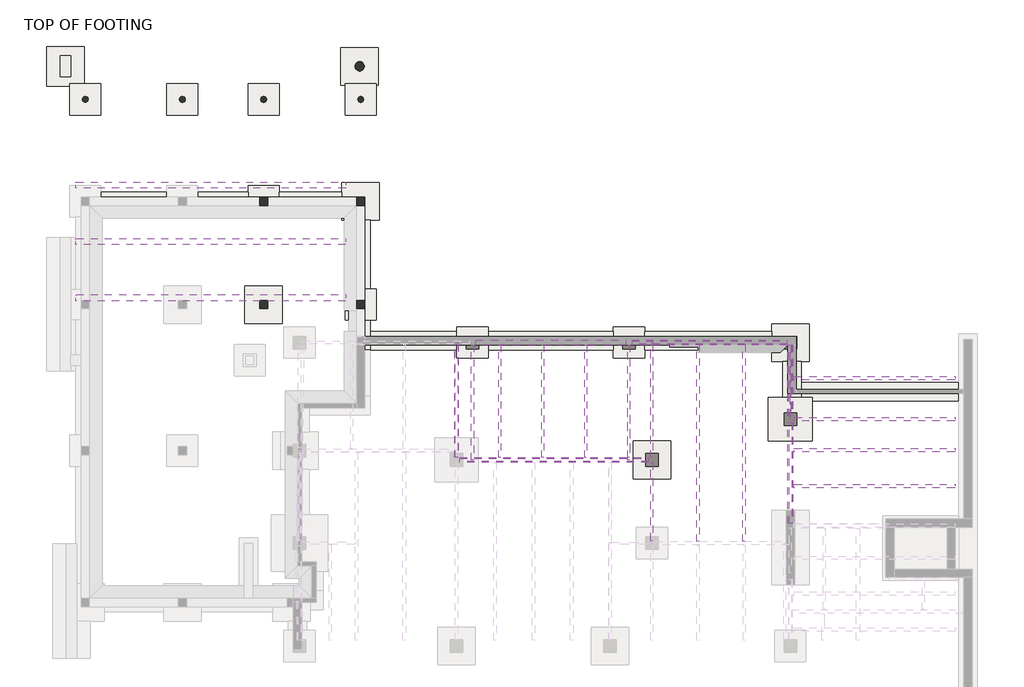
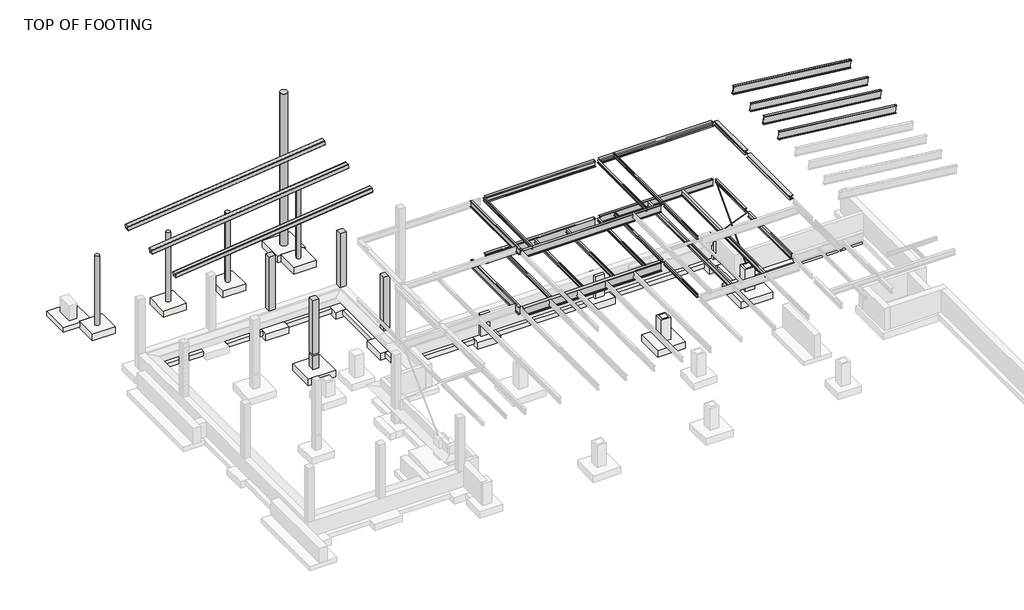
# One storey, part 4 of 5: 31 beams, 14 slabs, 9 columns, 6 footings, 2 members.
"""IFC4 building model written with IfcOpenShell, lengths in millimetres."""

from ifc_helpers import new_model, si_unit, point, frame, frame_2d, origin, place, context, project, spatial, polyline, circle_curve, trimmed, segment, composite_curve, outline, extrude, faceted_brep, transform, mapped, element, save
from components import hss_hollow_structural_section_hss12x12x1_2_ac1cf4bf, hss_hollow_structural_section_hss12x12x1_2_830ae8b1, w_wide_flange_w10x12_049afd95, w_wide_flange_w10x49_a7e93ba8, w_wide_flange_w10x49_ad4ce5ef, w_wide_flange_w10x49_01df90bb, w_wide_flange_w14x22_9bef81b0, w_wide_flange_w14x22_59cbeafc, w_wide_flange_w14x61_a1268b43, w_wide_flange_w16x26_811e96eb, w_wide_flange_w18x46_8f6cf0fd, w_wide_flange_w21x44_175405ae, w_wide_flange_w21x44_e2a4c59a, w_wide_flange_w21x44_7aeec852, w_wide_flange_w21x44_d1ecdd04, w_wide_flange_w21x44_476cda67, w_wide_flange_w21x44_bd7c8782, w_wide_flange_w24x84_4cf10b94, w_wide_flange_w24x84_bdb729cd, w_wide_flange_w8x10_22581100, w_wide_flange_w8x10_418ab950, w_wide_flange_w8x10_6a41b71d, w_wide_flange_w8x10_1bc876d9, slab_df1ede25, slab_6d6a3403, footing_rectangular_with_pier_e052c68f

model = new_model("IFC4")

# Units and contexts
model_context = context("Model", 3, world=origin())
ifc_project = project(units=[si_unit("LENGTHUNIT", "METRE", prefix="MILLI")], contexts=[model_context])

# Site, building, storey
site = spatial("IfcSite", under=ifc_project)
building = spatial("IfcBuilding", under=site)
storey = spatial("IfcBuildingStorey", under=building, Name="TOP OF FOOTING", Elevation=28905.2)

# Beams
placement = place(None, origin())
hss_hollow_structural_section_hss12x12x1_2_shape = hss_hollow_structural_section_hss12x12x1_2_ac1cf4bf(model_context)
element("IfcBeam", 1, ObjectType="HSS-Hollow Structural Section : HSS12X12X1/2", at=placement, inside=storey, context=model_context, shape_type="MappedRepresentation", body=[
    mapped(hss_hollow_structural_section_hss12x12x1_2_shape, transform((-14730.32539, 15509.5995005, 39127.1188846), x_axis=(-0.9938030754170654, 0.0, -0.11115505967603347), y_axis=(0.0, -1.0, 0.0), z_axis=(-0.11115505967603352, 0.0, 0.9938030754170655))),
])
hss_hollow_structural_section_hss12x12x1_2_2_shape = hss_hollow_structural_section_hss12x12x1_2_830ae8b1(model_context)
element("IfcBeam", 2, ObjectType="HSS-Hollow Structural Section : HSS12X12X1/2", at=placement, inside=storey, context=model_context, shape_type="MappedRepresentation", body=[
    mapped(hss_hollow_structural_section_hss12x12x1_2_2_shape, transform((-14730.32539, 12766.3995005, 39127.1188846), x_axis=(-0.9938030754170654, 0.0, -0.11115505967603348), y_axis=(0.0, -1.0, 0.0), z_axis=(-0.1111550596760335, 0.0, 0.9938030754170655))),
])
element("IfcBeam", 3, ObjectType="HSS-Hollow Structural Section : HSS12X12X1/2", at=placement, inside=storey, context=model_context, shape_type="MappedRepresentation", body=[
    mapped(hss_hollow_structural_section_hss12x12x1_2_2_shape, transform((-14730.32539, 10023.1995005, 39127.1188846), x_axis=(-0.9938030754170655, 0.0, -0.11115505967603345), y_axis=(0.0, -1.0000000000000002, 0.0), z_axis=(-0.11115505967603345, 0.0, 0.9938030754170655))),
])
w_wide_flange_w10x12_shape = w_wide_flange_w10x12_049afd95(model_context)
element("IfcBeam", 4, ObjectType="W-Wide Flange : W10X12", at=placement, inside=storey, context=model_context, shape_type="MappedRepresentation", body=[
    mapped(w_wide_flange_w10x12_shape, transform((-589.9923357, 4984.1570005, 34253.551), x_axis=(0.0, -1.0, 0.0), y_axis=(1.0, 0.0, 0.0), z_axis=(0.0, 0.0, 1.0))),
])
element("IfcBeam", 5, ObjectType="W-Wide Flange : W10X12", at=placement, inside=storey, context=model_context, shape_type="MappedRepresentation", body=[
    mapped(w_wide_flange_w10x12_shape, transform((1509.8732893, 4984.1570005, 34253.551), x_axis=(0.0, -1.0, 0.0), y_axis=(1.0, 0.0, 0.0), z_axis=(0.0, 0.0, 1.0))),
])
element("IfcBeam", 6, ObjectType="W-Wide Flange : W10X12", at=placement, inside=storey, context=model_context, shape_type="MappedRepresentation", body=[
    mapped(w_wide_flange_w10x12_shape, transform((3609.7389143, 4984.1570005, 34253.551), x_axis=(0.0, -1.0, 0.0), y_axis=(1.0, 0.0, 0.0), z_axis=(0.0, 0.0, 1.0))),
])
w_wide_flange_w10x49_shape = w_wide_flange_w10x49_a7e93ba8(model_context)
element("IfcBeam", 7, ObjectType="W-Wide Flange : W10X49", at=placement, inside=storey, context=model_context, shape_type="MappedRepresentation", body=[
    mapped(w_wide_flange_w10x49_shape, transform((13567.7295393, 1507.2018176, 38341.3), x_axis=(0.0, -1.0, 0.0), y_axis=(1.0, 0.0, 0.0), z_axis=(0.0, 0.0, 1.0))),
])
w_wide_flange_w10x49_2_shape = w_wide_flange_w10x49_ad4ce5ef(model_context)
element("IfcBeam", 8, ObjectType="W-Wide Flange : W10X49", at=placement, inside=storey, context=model_context, shape_type="MappedRepresentation", body=[
    mapped(w_wide_flange_w10x49_2_shape, transform((9638.6670393, 7843.2445005, 38277.8), x_axis=(1.0, 0.0, 0.0), y_axis=(0.0, 1.0, 0.0), z_axis=(0.0, 0.0, 1.0))),
])
w_wide_flange_w10x49_3_shape = w_wide_flange_w10x49_01df90bb(model_context)
element("IfcBeam", 9, ObjectType="W-Wide Flange : W10X49", at=placement, inside=storey, context=model_context, shape_type="MappedRepresentation", body=[
    mapped(w_wide_flange_w10x49_3_shape, transform((13567.7295393, 5974.7570005, 38341.3), x_axis=(0.0, -1.0, 0.0), y_axis=(1.0, 0.0, 0.0), z_axis=(0.0, 0.0, 1.0))),
])
w_wide_flange_w14x22_shape = w_wide_flange_w14x22_9bef81b0(model_context)
element("IfcBeam", 10, ObjectType="W-Wide Flange : W14X22", at=placement, inside=storey, context=model_context, shape_type="MappedRepresentation", body=[
    mapped(w_wide_flange_w14x22_shape, transform((9072.9878726, 2953.7445005, 34204.91), x_axis=(0.0, -1.0, 0.0), y_axis=(1.0, 0.0, 0.0), z_axis=(0.0, 0.0, 1.0))),
])
element("IfcBeam", 11, ObjectType="W-Wide Flange : W14X22", at=placement, inside=storey, context=model_context, shape_type="MappedRepresentation", body=[
    mapped(w_wide_flange_w14x22_shape, transform((11320.358706, 2953.7445005, 34204.91), x_axis=(0.0, -1.0, 0.0), y_axis=(1.0, 0.0, 0.0), z_axis=(0.0, 0.0, 1.0))),
])
w_wide_flange_w14x22_2_shape = w_wide_flange_w14x22_59cbeafc(model_context)
element("IfcBeam", 12, ObjectType="W-Wide Flange : W14X22", at=placement, inside=storey, context=model_context, shape_type="MappedRepresentation", body=[
    mapped(w_wide_flange_w14x22_2_shape, transform((13567.7295393, 1512.895307, 34204.91), x_axis=(0.0, -1.0, 0.0), y_axis=(1.0, 0.0, 0.0), z_axis=(0.0, 0.0, 1.0))),
])
w_wide_flange_w14x61_shape = w_wide_flange_w14x61_a1268b43(model_context)
element("IfcBeam", 13, ObjectType="W-Wide Flange : W14X61", at=placement, inside=storey, context=model_context, shape_type="MappedRepresentation", body=[
    mapped(w_wide_flange_w14x61_shape, transform((1899.6045393, 7843.2445005, 38228.27), x_axis=(1.0, 0.0, 0.0), y_axis=(0.0, 1.0, 0.0), z_axis=(0.0, 0.0, 1.0))),
])
w_wide_flange_w16x26_shape = w_wide_flange_w16x26_811e96eb(model_context)
element("IfcBeam", 14, ObjectType="W-Wide Flange : W16X26", at=placement, inside=storey, context=model_context, shape_type="MappedRepresentation", body=[
    mapped(w_wide_flange_w16x26_shape, transform((-2689.8579607, 4984.1570005, 38268.91), x_axis=(0.0, 1.0, 0.0), y_axis=(-1.0, 0.0, 0.0), z_axis=(0.0, 0.0, 1.0))),
])
w_wide_flange_w18x46_shape = w_wide_flange_w18x46_8f6cf0fd(model_context)
element("IfcBeam", 15, ObjectType="W-Wide Flange : W18X46", at=placement, inside=storey, context=model_context, shape_type="MappedRepresentation", body=[
    mapped(w_wide_flange_w18x46_shape, transform((9638.6670393, 7843.2445005, 34149.03), x_axis=(1.0, 0.0, 0.0), y_axis=(0.0, 1.0, 0.0), z_axis=(0.0, 0.0, 1.0))),
])
w_wide_flange_w21x44_shape = w_wide_flange_w21x44_175405ae(model_context)
element("IfcBeam", 16, ObjectType="W-Wide Flange : W21X44", at=placement, inside=storey, context=model_context, shape_type="MappedRepresentation", body=[
    mapped(w_wide_flange_w21x44_shape, transform((-2689.8579607, 4984.1570005, 34116.01), x_axis=(0.0, -1.0, 0.0), y_axis=(1.0, 0.0, 0.0), z_axis=(0.0, 0.0, 1.0))),
])
w_wide_flange_w21x44_2_shape = w_wide_flange_w21x44_e2a4c59a(model_context)
element("IfcBeam", 17, ObjectType="W-Wide Flange : W21X44", at=placement, inside=storey, context=model_context, shape_type="MappedRepresentation", body=[
    mapped(w_wide_flange_w21x44_2_shape, transform((1975.8045393, 2125.0695005, 38141.91), x_axis=(1.0, 0.0, 0.0), y_axis=(0.0, 1.0, 0.0), z_axis=(0.0, 0.0, 1.0))),
])
w_wide_flange_w21x44_3_shape = w_wide_flange_w21x44_7aeec852(model_context)
element("IfcBeam", 18, ObjectType="W-Wide Flange : W21X44", at=placement, inside=storey, context=model_context, shape_type="MappedRepresentation", body=[
    mapped(w_wide_flange_w21x44_3_shape, transform((17638.6741644, 6094.6091164, 41130.9644247), x_axis=(0.9938030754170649, 0.0, -0.1111550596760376), y_axis=(0.0, 1.0, 0.0), z_axis=(0.11115505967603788, 0.0, 0.9938030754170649))),
])
w_wide_flange_w21x44_4_shape = w_wide_flange_w21x44_d1ecdd04(model_context)
element("IfcBeam", 19, ObjectType="W-Wide Flange : W21X44", at=placement, inside=storey, context=model_context, shape_type="MappedRepresentation", body=[
    mapped(w_wide_flange_w21x44_4_shape, transform((17638.6404524, 848.7029641, 41130.9681954), x_axis=(0.993803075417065, 0.0, -0.11115505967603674), y_axis=(0.0, 1.0, 0.0), z_axis=(0.11115505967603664, 0.0, 0.9938030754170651))),
])
w_wide_flange_w21x44_5_shape = w_wide_flange_w21x44_476cda67(model_context)
element("IfcBeam", 20, ObjectType="W-Wide Flange : W21X44", at=placement, inside=storey, context=model_context, shape_type="MappedRepresentation", body=[
    mapped(w_wide_flange_w21x44_5_shape, transform((17638.6516897, 2597.3383482, 41130.9669385), x_axis=(0.993803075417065, 0.0, -0.11115505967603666), y_axis=(0.0, 1.0, 0.0), z_axis=(0.11115505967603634, 0.0, 0.9938030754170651))),
])
w_wide_flange_w21x44_6_shape = w_wide_flange_w21x44_bd7c8782(model_context)
element("IfcBeam", 21, ObjectType="W-Wide Flange : W21X44", at=placement, inside=storey, context=model_context, shape_type="MappedRepresentation", body=[
    mapped(w_wide_flange_w21x44_6_shape, transform((17638.6613866, 4106.2695005, 41130.9658539), x_axis=(0.9938030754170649, 0.0, -0.1111550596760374), y_axis=(0.0, 0.9999999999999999, 0.0), z_axis=(0.1111550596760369, 0.0, 0.993803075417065))),
])
w_wide_flange_w24x84_shape = w_wide_flange_w24x84_4cf10b94(model_context)
element("IfcBeam", 22, ObjectType="W-Wide Flange : W24X84", at=placement, inside=storey, context=model_context, shape_type="MappedRepresentation", body=[
    mapped(w_wide_flange_w24x84_shape, transform((1899.6045393, 7843.2445005, 34072.83), x_axis=(1.0, 0.0, 0.0), y_axis=(0.0, 1.0, 0.0), z_axis=(0.0, 0.0, 1.0))),
])
w_wide_flange_w24x84_2_shape = w_wide_flange_w24x84_bdb729cd(model_context)
element("IfcBeam", 23, ObjectType="W-Wide Flange : W24X84", at=placement, inside=storey, context=model_context, shape_type="MappedRepresentation", body=[
    mapped(w_wide_flange_w24x84_2_shape, transform((1975.8045393, 2125.0695005, 34072.83), x_axis=(1.0, 0.0, 0.0), y_axis=(0.0, 1.0, 0.0), z_axis=(0.0, 0.0, 1.0))),
])
w_wide_flange_w8x10_shape = w_wide_flange_w8x10_22581100(model_context)
element("IfcBeam", 24, ObjectType="W-Wide Flange : W8X10", at=placement, inside=storey, context=model_context, shape_type="MappedRepresentation", body=[
    mapped(w_wide_flange_w8x10_shape, transform((5709.6045393, 4984.1570005, 34278.697), x_axis=(0.0, -1.0, 0.0), y_axis=(1.0, 0.0, 0.0), z_axis=(0.0, 0.0, 1.0))),
])
w_wide_flange_w8x10_2_shape = w_wide_flange_w8x10_418ab950(model_context)
element("IfcBeam", 25, ObjectType="W-Wide Flange : W8X10", at=placement, inside=storey, context=model_context, shape_type="MappedRepresentation", body=[
    mapped(w_wide_flange_w8x10_2_shape, transform((6825.6170393, 4984.1570005, 34278.697), x_axis=(0.0, -1.0, 0.0), y_axis=(1.0, 0.0, 0.0), z_axis=(0.0, 0.0, 1.0))),
])
w_wide_flange_w8x10_3_shape = w_wide_flange_w8x10_6a41b71d(model_context)
element("IfcBeam", 26, ObjectType="W-Wide Flange : W8X10", at=placement, inside=storey, context=model_context, shape_type="MappedRepresentation", body=[
    mapped(w_wide_flange_w8x10_3_shape, transform((-1910.3954607, 4984.1570005, 38368.097), x_axis=(0.0, -1.0, 0.0), y_axis=(1.0, 0.0, 0.0), z_axis=(0.0, 0.0, 1.0))),
])
element("IfcBeam", 27, ObjectType="W-Wide Flange : W8X10", at=placement, inside=storey, context=model_context, shape_type="MappedRepresentation", body=[
    mapped(w_wide_flange_w8x10_3_shape, transform((5709.6045393, 4984.1570005, 38368.097), x_axis=(0.0, -1.0, 0.0), y_axis=(1.0, 0.0, 0.0), z_axis=(0.0, 0.0, 1.0))),
])
element("IfcBeam", 28, ObjectType="W-Wide Flange : W8X10", at=placement, inside=storey, context=model_context, shape_type="MappedRepresentation", body=[
    mapped(w_wide_flange_w8x10_3_shape, transform((6825.6170393, 4984.1570005, 38368.097), x_axis=(0.0, 1.0, 0.0), y_axis=(-1.0, 0.0, 0.0), z_axis=(0.0, 0.0, 1.0))),
])
w_wide_flange_w8x10_4_shape = w_wide_flange_w8x10_1bc876d9(model_context)
element("IfcBeam", 29, ObjectType="W-Wide Flange : W8X10", at=placement, inside=storey, context=model_context, shape_type="MappedRepresentation", body=[
    mapped(w_wide_flange_w8x10_4_shape, transform((6825.6170393, 94.6570005, 34278.697), x_axis=(0.0, -1.0, 0.0), y_axis=(1.0, 0.0, 0.0), z_axis=(0.0, 0.0, 1.0))),
])
element("IfcBeam", 30, ObjectType="W-Wide Flange : W8X10", at=placement, inside=storey, context=model_context, shape_type="MappedRepresentation", body=[
    mapped(w_wide_flange_w8x10_4_shape, transform((6825.6170393, 94.6570005, 38368.097), x_axis=(0.0, 1.0, 0.0), y_axis=(-1.0, 0.0, 0.0), z_axis=(0.0, 0.0, 1.0))),
])
element("IfcBeam", 31, ObjectType="W-Wide Flange : W8X18", at=placement, inside=storey, context=model_context, shape_type="SweptSolid", body=[
    extrude(outline(composite_curve([segment(polyline([(34180.526, 13634.4045393), (34180.526, 13582.9060393)]), True, "CONTINUOUS"), segment(trimmed(circle_curve(frame_2d((34192.7815, 13582.9060393)), 12.2555), [point((34180.526, 13582.9060393))], [point((34192.7815, 13570.6505393))], True, "CARTESIAN"), True, "CONTINUOUS"), segment(polyline([(34192.7815, 13570.6505393), (34358.2625, 13570.6505393)]), True, "CONTINUOUS"), segment(trimmed(circle_curve(frame_2d((34358.2625, 13582.9060393)), 12.2555), [point((34358.2625, 13570.6505393))], [point((34370.518, 13582.9060393))], True, "CARTESIAN"), True, "CONTINUOUS"), segment(polyline([(34370.518, 13582.9060393), (34370.518, 13634.4045393), (34378.9, 13634.4045393), (34378.9, 13501.0545393), (34370.518, 13501.0545393), (34370.518, 13552.5530393)]), True, "CONTINUOUS"), segment(trimmed(circle_curve(frame_2d((34358.2625, 13552.5530393)), 12.2555), [point((34370.518, 13552.5530393))], [point((34358.2625, 13564.8085393))], True, "CARTESIAN"), True, "CONTINUOUS"), segment(polyline([(34358.2625, 13564.8085393), (34192.7815, 13564.8085393)]), True, "CONTINUOUS"), segment(trimmed(circle_curve(frame_2d((34192.7815, 13552.5530393)), 12.2555), [point((34192.7815, 13564.8085393))], [point((34180.526, 13552.5530393))], True, "CARTESIAN"), True, "CONTINUOUS"), segment(polyline([(34180.526, 13552.5530393), (34180.526, 13501.0545393), (34172.144, 13501.0545393), (34172.144, 13634.4045393), (34180.526, 13634.4045393)]), True, "CONTINUOUS")], self_intersect=False)), frame((0.0, 4270.6253599, 0.0), z_axis=(0.0, 1.0, 0.0), x_axis=(0.0, 0.0, 1.0)), (0.0, 0.0, 1.0), 3458.2695313),
])

# Columns
element("IfcColumn", 32, ObjectType="Concrete-Rectangular-Column : 16 x 16", at=placement, inside=storey, context=model_context, shape_type="Brep", body=[
    faceted_brep([(-7149.1454607, 14926.6695005, 33782.0), (-7149.1454607, 14621.8695005, 33782.0), (-7149.1454607, 14520.2695005, 33782.0), (-7149.1454607, 14520.2695005, 29972.0), (-7149.1454607, 14926.6695005, 29972.0), (-7555.5454607, 14520.2695005, 33782.0), (-7555.5454607, 14520.2695005, 29972.0), (-7555.5454607, 14926.6695005, 33782.0), (-7555.5454607, 14926.6695005, 29972.0)], [[[0, 1, 2, 3, 4]], [[2, 5, 6, 3]], [[5, 7, 8, 6]], [[7, 0, 4, 8]], [[2, 1, 0, 7, 5]], [[4, 3, 6, 8]]]),
])
element("IfcColumn", 33, ObjectType="Concrete-Rectangular-Column : 16 x 16", at=placement, inside=storey, context=model_context, shape_type="SweptSolid", body=[
    extrude(outline(polyline([(-11873.5454607, 14926.6695005), (-11873.5454607, 14520.2695005), (-12279.9454607, 14520.2695005), (-12279.9454607, 14926.6695005), (-11873.5454607, 14926.6695005)])), frame((0.0, 0.0, 29972.0), z_axis=(0.0, 0.0, 1.0), x_axis=(1.0, 0.0, 0.0)), (0.0, 0.0, 1.0), 3810.0),
])
element("IfcColumn", 34, ObjectType="Concrete-Rectangular-Column : 16 x 16", at=placement, inside=storey, context=model_context, shape_type="Brep", body=[
    faceted_brep([(-7149.1454607, 9897.4695005, 33782.0), (-7149.1454607, 9795.8695005, 33782.0), (-7149.1454607, 9491.0695005, 33782.0), (-7149.1454607, 9491.0695005, 29972.0), (-7149.1454607, 9897.4695005, 29972.0), (-7555.5454607, 9491.0695005, 33782.0), (-7555.5454607, 9491.0695005, 29972.0), (-7555.5454607, 9897.4695005, 33782.0), (-7555.5454607, 9897.4695005, 29972.0)], [[[0, 1, 2, 3, 4]], [[2, 5, 6, 3]], [[5, 7, 8, 6]], [[7, 0, 4, 8]], [[2, 1, 0, 7, 5]], [[4, 3, 6, 8]]]),
])
element("IfcColumn", 35, ObjectType="Concrete-Rectangular-Column : 16 x 16", at=placement, inside=storey, context=model_context, shape_type="SweptSolid", body=[
    extrude(outline(polyline([(-11873.5454607, 9897.4695005), (-11873.5454607, 9491.0695005), (-12279.9454607, 9491.0695005), (-12279.9454607, 9897.4695005), (-11873.5454607, 9897.4695005)])), frame((0.0, 0.0, 28905.2), z_axis=(0.0, 0.0, 1.0), x_axis=(1.0, 0.0, 0.0)), (0.0, 0.0, 1.0), 965.2),
    extrude(outline(polyline([(-11873.5454607, 9897.4695005), (-11873.5454607, 9491.0695005), (-12279.9454607, 9491.0695005), (-12279.9454607, 9897.4695005), (-11873.5454607, 9897.4695005)])), frame((0.0, 0.0, 29972.0), z_axis=(0.0, 0.0, 1.0), x_axis=(1.0, 0.0, 0.0)), (0.0, 0.0, 1.0), 3810.0),
])
element("IfcColumn", 36, ObjectType="Concrete-Round-Column : 12\"", at=placement, inside=storey, context=model_context, shape_type="SweptSolid", body=[
    extrude(outline(composite_curve([segment(trimmed(circle_curve(frame_2d((-20763.5454607, 19695.5195005)), 152.4), [point((-20915.9454607, 19695.5195005))], [point((-20611.1454607, 19695.5195005))], False, "CARTESIAN"), True, "CONTINUOUS"), segment(trimmed(circle_curve(frame_2d((-20763.5454607, 19695.5195005)), 152.4), [point((-20611.1454607, 19695.5195005))], [point((-20915.9454607, 19695.5195005))], False, "CARTESIAN"), True, "CONTINUOUS")], self_intersect=False)), frame((0.0, 0.0, 28905.2), z_axis=(0.0, 0.0, 1.0), x_axis=(1.0, 0.0, 0.0)), (0.0, 0.0, 1.0), 4876.8),
])
element("IfcColumn", 37, ObjectType="Concrete-Round-Column : 12\"", at=placement, inside=storey, context=model_context, shape_type="SweptSolid", body=[
    extrude(outline(composite_curve([segment(trimmed(circle_curve(frame_2d((-16039.1454607, 19695.5195005)), 152.4), [point((-16191.5454607, 19695.5195005))], [point((-15886.7454607, 19695.5195005))], False, "CARTESIAN"), True, "CONTINUOUS"), segment(trimmed(circle_curve(frame_2d((-16039.1454607, 19695.5195005)), 152.4), [point((-15886.7454607, 19695.5195005))], [point((-16191.5454607, 19695.5195005))], False, "CARTESIAN"), True, "CONTINUOUS")], self_intersect=False)), frame((0.0, 0.0, 28905.2), z_axis=(0.0, 0.0, 1.0), x_axis=(1.0, 0.0, 0.0)), (0.0, 0.0, 1.0), 4876.8),
])
element("IfcColumn", 38, ObjectType="Concrete-Round-Column : 12\"", at=placement, inside=storey, context=model_context, shape_type="SweptSolid", body=[
    extrude(outline(composite_curve([segment(trimmed(circle_curve(frame_2d((-12076.7454607, 19695.5195005)), 152.4), [point((-12229.1454607, 19695.5195005))], [point((-11924.3454607, 19695.5195005))], False, "CARTESIAN"), True, "CONTINUOUS"), segment(trimmed(circle_curve(frame_2d((-12076.7454607, 19695.5195005)), 152.4), [point((-11924.3454607, 19695.5195005))], [point((-12229.1454607, 19695.5195005))], False, "CARTESIAN"), True, "CONTINUOUS")], self_intersect=False)), frame((0.0, 0.0, 28905.2), z_axis=(0.0, 0.0, 1.0), x_axis=(1.0, 0.0, 0.0)), (0.0, 0.0, 1.0), 4876.8),
])
element("IfcColumn", 39, ObjectType="Concrete-Round-Column : 12\"", at=placement, inside=storey, context=model_context, shape_type="SweptSolid", body=[
    extrude(outline(composite_curve([segment(trimmed(circle_curve(frame_2d((-7352.3454607, 19695.5195005)), 152.4), [point((-7504.7454607, 19695.5195005))], [point((-7199.9454607, 19695.5195005))], False, "CARTESIAN"), True, "CONTINUOUS"), segment(trimmed(circle_curve(frame_2d((-7352.3454607, 19695.5195005)), 152.4), [point((-7199.9454607, 19695.5195005))], [point((-7504.7454607, 19695.5195005))], False, "CARTESIAN"), True, "CONTINUOUS")], self_intersect=False)), frame((0.0, 0.0, 28905.2), z_axis=(0.0, 0.0, 1.0), x_axis=(1.0, 0.0, 0.0)), (0.0, 0.0, 1.0), 4876.8),
])
element("IfcColumn", 40, ObjectType="Concrete-Round-Column1 : 18\"", at=placement, inside=storey, context=model_context, shape_type="SweptSolid", body=[
    extrude(outline(composite_curve([segment(trimmed(circle_curve(frame_2d((-7403.1454607, 21302.0695005)), 228.6), [point((-7631.7454607, 21302.0695005))], [point((-7174.5454607, 21302.0695005))], False, "CARTESIAN"), True, "CONTINUOUS"), segment(trimmed(circle_curve(frame_2d((-7403.1454607, 21302.0695005)), 228.6), [point((-7174.5454607, 21302.0695005))], [point((-7631.7454607, 21302.0695005))], False, "CARTESIAN"), True, "CONTINUOUS")], self_intersect=False)), frame((0.0, 0.0, 28905.2), z_axis=(0.0, 0.0, 1.0), x_axis=(1.0, 0.0, 0.0)), (0.0, 0.0, 1.0), 10717.7043208),
])

# Footings
element("IfcFooting", 41, ObjectType="Bearing Footing - 36\" x 12\"", at=placement, inside=storey, context=model_context, shape_type="SweptSolid", body=[
    extrude(outline(polyline([(-8266.7454607, 15180.6695005), (-8266.7454607, 14266.2695005), (-11314.7454607, 14266.2695005), (-11314.7454607, 15180.6695005), (-8266.7454607, 15180.6695005)])), frame((0.0, 0.0, 28600.4), z_axis=(0.0, 0.0, 1.0), x_axis=(1.0, 0.0, 0.0)), (0.0, 0.0, 1.0), 304.8),
    extrude(outline(polyline([(-12838.7454607, 15180.6695005), (-12838.7454607, 14266.2695005), (-15277.1454607, 14266.2695005), (-15277.1454607, 15180.6695005), (-12838.7454607, 15180.6695005)])), frame((0.0, 0.0, 28600.4), z_axis=(0.0, 0.0, 1.0), x_axis=(1.0, 0.0, 0.0)), (0.0, 0.0, 1.0), 304.8),
    extrude(outline(polyline([(-16801.1454607, 15180.6695005), (-16801.1454607, 14266.2695005), (-20001.5454607, 14266.2695005), (-20001.5454607, 15180.6695005), (-16801.1454607, 15180.6695005)])), frame((0.0, 0.0, 28600.4), z_axis=(0.0, 0.0, 1.0), x_axis=(1.0, 0.0, 0.0)), (0.0, 0.0, 1.0), 304.8),
])
element("IfcFooting", 42, ObjectType="Bearing Footing - 36\" x 12\"", at=placement, inside=storey, context=model_context, shape_type="Brep", body=[
    faceted_brep([(-6895.1454607, 8932.2695005, 28905.2), (-7809.5454607, 8932.2695005, 28905.2), (-7809.5454607, 7471.7695005, 28905.2), (-6895.1454607, 7471.7695005, 28905.2), (-6895.1454607, 8386.1695005, 28905.2), (-6895.1454607, 7471.7695005, 28600.4), (-6895.1454607, 8386.1695005, 28600.4), (-6895.1454607, 8932.2695005, 28600.4), (-7809.5454607, 8932.2695005, 28600.4), (-7809.5454607, 7471.7695005, 28600.4)], [[[0, 1, 2, 3, 4]], [[3, 5, 6, 7, 0, 4]], [[8, 7, 6, 5, 9]], [[9, 2, 1, 8]], [[1, 0, 7, 8]], [[3, 2, 9, 5]]]),
    faceted_brep([(-7809.5454607, 10456.2695005, 28905.2), (-6895.1454607, 10456.2695005, 28905.2), (-6895.1454607, 13809.0695005, 28905.2), (-7809.5454607, 13809.0695005, 28905.2), (-6895.1454607, 10456.2695005, 28600.4), (-6895.1454607, 13809.0695005, 28600.4), (-7809.5454607, 10456.2695005, 28600.4), (-7809.5454607, 13809.0695005, 28600.4)], [[[0, 1, 2, 3]], [[1, 4, 5, 2]], [[4, 6, 7, 5]], [[6, 0, 3, 7]], [[1, 0, 6, 4]], [[3, 2, 5, 7]]]),
])
element("IfcFooting", 43, ObjectType="Bearing Footing - 36\" x 12\"", at=placement, inside=storey, context=model_context, shape_type="SweptSolid", body=[
    extrude(outline(polyline([(-2672.3954607, 8386.1695005), (-2672.3954607, 7471.7695005), (-6895.1454607, 7471.7695005), (-6895.1454607, 8386.1695005), (-2672.3954607, 8386.1695005)])), frame((0.0, 0.0, 28600.4), z_axis=(0.0, 0.0, 1.0), x_axis=(1.0, 0.0, 0.0)), (0.0, 0.0, 1.0), 304.8),
    extrude(outline(polyline([(-1148.3954607, 7471.7695005), (-1148.3954607, 8386.1695005), (4947.6045393, 8386.1695005), (4947.6045393, 7471.7695005), (-1148.3954607, 7471.7695005)])), frame((0.0, 0.0, 28600.4), z_axis=(0.0, 0.0, 1.0), x_axis=(1.0, 0.0, 0.0)), (0.0, 0.0, 1.0), 304.8),
    extrude(outline(polyline([(12653.3295393, 8386.1695005), (12653.3295393, 7471.7695005), (6471.6045393, 7471.7695005), (6471.6045393, 8386.1695005), (12653.3295393, 8386.1695005)])), frame((0.0, 0.0, 28600.4), z_axis=(0.0, 0.0, 1.0), x_axis=(1.0, 0.0, 0.0)), (0.0, 0.0, 1.0), 304.8),
])
element("IfcFooting", 44, ObjectType="Bearing Footing - 36\" x 12\"", at=placement, inside=storey, context=model_context, shape_type="Brep", body=[
    faceted_brep([(14110.6545393, 6928.8445005, 28905.2), (13196.2545393, 6928.8445005, 28905.2), (13196.2545393, 5173.0695005, 28905.2), (14110.6545393, 5173.0695005, 28905.2), (14110.6545393, 5909.6695005, 28905.2), (14110.6545393, 6928.8445005, 28600.4), (14110.6545393, 5173.0695005, 28600.4), (14110.6545393, 5909.6695005, 28600.4), (13196.2545393, 6928.8445005, 28600.4), (13196.2545393, 5173.0695005, 28600.4)], [[[0, 1, 2, 3, 4]], [[5, 0, 4, 3, 6, 7]], [[8, 5, 7, 6, 9]], [[1, 8, 9, 2]], [[1, 0, 5, 8]], [[3, 2, 9, 6]]]),
])
element("IfcFooting", 45, ObjectType="Bearing Footing - 36\" x 12\"", at=placement, inside=storey, context=model_context, shape_type="SweptSolid", body=[
    extrude(outline(polyline([(21765.578935, 5909.6695005), (21765.578935, 4995.2695005), (14634.5295393, 4995.2695005), (14634.5295393, 5173.0695005), (14110.6545393, 5173.0695005), (14110.6545393, 5909.6695005), (21765.578935, 5909.6695005)])), frame((0.0, 0.0, 28600.4), z_axis=(0.0, 0.0, 1.0), x_axis=(1.0, 0.0, 0.0)), (0.0, 0.0, 1.0), 304.8),
])
element("IfcFooting", 46, ObjectType="Bearing Footing - 72\" x 12\" 2", at=placement, inside=storey, context=model_context, shape_type="SweptSolid", body=[
    extrude(outline(polyline([(-22651.3919313, 22270.6082736), (-20822.5919313, 22270.6082736), (-20822.5919313, 20457.5195005), (-21525.5454607, 20457.5195005), (-21525.5454607, 20340.2082736), (-22651.3919313, 20340.2082736), (-22651.3919313, 22270.6082736)])), frame((0.0, 0.0, 28600.4), z_axis=(0.0, 0.0, 1.0), x_axis=(1.0, 0.0, 0.0)), (0.0, 0.0, 1.0), 304.8),
])

# Members
element("IfcMember", 47, ObjectType="Round Bar : 1\"", at=placement, inside=storey, context=model_context, shape_type="SweptSolid", body=[
    extrude(outline(composite_curve([segment(trimmed(circle_curve(frame_2d((0.0, -12.7)), 12.7), [point((0.0, -25.4))], [point((0.0, 0.0))], False, "CARTESIAN"), True, "CONTINUOUS"), segment(trimmed(circle_curve(frame_2d((0.0, -12.7)), 12.7), [point((0.0, 0.0))], [point((0.0, -25.4))], False, "CARTESIAN"), True, "CONTINUOUS")], self_intersect=False)), frame((13555.0295393, 4275.8774399, 30482.5348851), z_axis=(0.0, 0.6851097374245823, 0.7284398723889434), x_axis=(0.0, 0.7284398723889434, -0.6851097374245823)), (0.0, 0.0, 1.0), 4991.1009602),
])
element("IfcMember", 48, ObjectType="Round Bar : 1\"", at=placement, inside=storey, context=model_context, shape_type="SweptSolid", body=[
    extrude(outline(composite_curve([segment(trimmed(circle_curve(frame_2d((0.0, -12.7)), 12.7), [point((0.0, -25.4))], [point((0.0, 0.0))], False, "CARTESIAN"), True, "CONTINUOUS"), segment(trimmed(circle_curve(frame_2d((0.0, -12.7)), 12.7), [point((0.0, 0.0))], [point((0.0, -25.4))], False, "CARTESIAN"), True, "CONTINUOUS")], self_intersect=False)), frame((13580.4295393, 7693.2003014, 30493.7622922), z_axis=(0.0, -0.694970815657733, 0.7190379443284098), x_axis=(0.0, -0.7190379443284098, -0.694970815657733)), (0.0, 0.0, 1.0), 5135.428437),
])

# Slabs
element("IfcSlab", 49, ObjectType="Footing-Rectangular : 5'-0\" x 5'-0\" x 1'-6\"", at=placement, inside=storey, context=model_context, shape_type="Brep", body=[
    faceted_brep([(-6590.3454607, 10456.2695005, 28905.2), (-6895.1454607, 10456.2695005, 28905.2), (-7809.5454607, 10456.2695005, 28905.2), (-8114.3454607, 10456.2695005, 28905.2), (-8114.3454607, 8932.2695005, 28905.2), (-7809.5454607, 8932.2695005, 28905.2), (-6895.1454607, 8932.2695005, 28905.2), (-6590.3454607, 8932.2695005, 28905.2), (-6590.3454607, 10456.2695005, 28448.0), (-6590.3454607, 8932.2695005, 28448.0), (-8114.3454607, 8932.2695005, 28448.0), (-8114.3454607, 10456.2695005, 28448.0)], [[[0, 1, 2, 3, 4, 5, 6, 7]], [[8, 9, 10, 11]], [[3, 2, 1, 0, 8, 11]], [[4, 3, 11, 10]], [[7, 6, 5, 4, 10, 9]], [[0, 7, 9, 8]]]),
])
element("IfcSlab", 50, ObjectType="Footing-Rectangular : 5'-0\" x 5'-0\" x 1'-6\"", at=placement, inside=storey, context=model_context, shape_type="Brep", body=[
    faceted_brep([(-11314.7454607, 15485.4695005, 28905.2), (-12838.7454607, 15485.4695005, 28905.2), (-12838.7454607, 15180.6695005, 28905.2), (-12838.7454607, 14266.2695005, 28905.2), (-12838.7454607, 13961.4695005, 28905.2), (-11314.7454607, 13961.4695005, 28905.2), (-11314.7454607, 14266.2695005, 28905.2), (-11314.7454607, 15180.6695005, 28905.2), (-11314.7454607, 15485.4695005, 28448.0), (-11314.7454607, 13961.4695005, 28448.0), (-12838.7454607, 13961.4695005, 28448.0), (-12838.7454607, 15485.4695005, 28448.0)], [[[0, 1, 2, 3, 4, 5, 6, 7]], [[8, 9, 10, 11]], [[1, 0, 8, 11]], [[4, 3, 2, 1, 11, 10]], [[5, 4, 10, 9]], [[0, 7, 6, 5, 9, 8]]]),
])
element("IfcSlab", 51, ObjectType="Footing-Rectangular : 5'-0\" x 5'-0\" x 1'-6\"", at=placement, inside=storey, context=model_context, shape_type="Brep", body=[
    faceted_brep([(-20001.5454607, 20457.5195005, 28905.2), (-20822.5919313, 20457.5195005, 28905.2), (-21525.5454607, 20457.5195005, 28905.2), (-21525.5454607, 20340.2082736, 28905.2), (-21525.5454607, 18933.5195005, 28905.2), (-20001.5454607, 18933.5195005, 28905.2), (-20001.5454607, 20457.5195005, 28448.0), (-20001.5454607, 18933.5195005, 28448.0), (-21525.5454607, 18933.5195005, 28448.0), (-21525.5454607, 20457.5195005, 28448.0), (-21525.5454607, 20457.5195005, 28600.4)], [[[0, 1, 2, 3, 4, 5]], [[6, 7, 8, 9]], [[2, 1, 0, 6, 9, 10]], [[4, 3, 2, 10, 9, 8]], [[5, 4, 8, 7]], [[0, 5, 7, 6]]]),
])
element("IfcSlab", 52, ObjectType="Footing-Rectangular : 5'-0\" x 5'-0\" x 1'-6\"", at=placement, inside=storey, context=model_context, shape_type="Brep", body=[
    faceted_brep([(-6590.3454607, 20457.5195005, 28905.2), (-8114.3454607, 20457.5195005, 28905.2), (-8114.3454607, 20387.6695005, 28905.2), (-8114.3454607, 18933.5195005, 28905.2), (-6590.3454607, 18933.5195005, 28905.2), (-6590.3454607, 20387.6695005, 28905.2), (-6590.3454607, 20457.5195005, 28448.0), (-6590.3454607, 20387.6695005, 28448.0), (-6590.3454607, 18933.5195005, 28448.0), (-8114.3454607, 18933.5195005, 28448.0), (-8114.3454607, 20387.6695005, 28448.0), (-8114.3454607, 20457.5195005, 28448.0)], [[[0, 1, 2, 3, 4, 5]], [[6, 7, 8, 9, 10, 11]], [[1, 0, 6, 11]], [[3, 2, 1, 11, 10, 9]], [[4, 3, 9, 8]], [[0, 5, 4, 8, 7, 6]]]),
])
slab_shape = slab_df1ede25(model_context)
element("IfcSlab", 53, ObjectType="Footing-Rectangular : 5'-0\" x 5'-0\" x 1'-6\"", at=placement, inside=storey, context=model_context, shape_type="MappedRepresentation", body=[
    mapped(slab_shape, transform((-16039.1454607, 19695.5195005, 28905.2), x_axis=(1.0, 0.0, 0.0), y_axis=(0.0, 1.0, 0.0), z_axis=(0.0, 0.0, 1.0))),
])
element("IfcSlab", 54, ObjectType="Footing-Rectangular : 5'-0\" x 5'-0\" x 1'-6\"", at=placement, inside=storey, context=model_context, shape_type="MappedRepresentation", body=[
    mapped(slab_shape, transform((-12076.7454607, 19695.5195005, 28905.2), x_axis=(1.0, 0.0, 0.0), y_axis=(0.0, 1.0, 0.0), z_axis=(0.0, 0.0, 1.0))),
])
element("IfcSlab", 55, ObjectType="Footing-Rectangular : 6'-0\" x 6'-0\" x 1'-6\"", at=placement, inside=storey, context=model_context, shape_type="Brep", body=[
    faceted_brep([(-6437.9454607, 15637.8695005, 28905.2), (-8266.7454607, 15637.8695005, 28905.2), (-8266.7454607, 15180.6695005, 28905.2), (-8266.7454607, 14266.2695005, 28905.2), (-8266.7454607, 13809.0695005, 28905.2), (-7809.5454607, 13809.0695005, 28905.2), (-6895.1454607, 13809.0695005, 28905.2), (-6437.9454607, 13809.0695005, 28905.2), (-6437.9454607, 15637.8695005, 28448.0), (-6437.9454607, 13809.0695005, 28448.0), (-8266.7454607, 13809.0695005, 28448.0), (-8266.7454607, 15637.8695005, 28448.0)], [[[0, 1, 2, 3, 4, 5, 6, 7]], [[8, 9, 10, 11]], [[1, 0, 8, 11]], [[4, 3, 2, 1, 11, 10]], [[7, 6, 5, 4, 10, 9]], [[0, 7, 9, 8]]]),
])
element("IfcSlab", 56, ObjectType="Footing-Rectangular : 6'-0\" x 6'-0\" x 1'-6\"", at=placement, inside=storey, context=model_context, shape_type="SweptSolid", body=[
    extrude(outline(polyline([(-6488.7454607, 22216.4695005), (-6488.7454607, 20387.6695005), (-6590.3454607, 20387.6695005), (-6590.3454607, 20457.5195005), (-8114.3454607, 20457.5195005), (-8114.3454607, 20387.6695005), (-8317.5454607, 20387.6695005), (-8317.5454607, 22216.4695005), (-6488.7454607, 22216.4695005)])), frame((0.0, 0.0, 28448.0), z_axis=(0.0, 0.0, 1.0), x_axis=(1.0, 0.0, 0.0)), (0.0, 0.0, 1.0), 457.2),
])
slab_2_shape = slab_6d6a3403(model_context)
element("IfcSlab", 57, ObjectType="Footing-Rectangular : 6'-0\" x 6'-0\" x 1'-6\"", at=placement, inside=storey, context=model_context, shape_type="MappedRepresentation", body=[
    mapped(slab_2_shape, transform((-12076.7454607, 9694.2695005, 28905.2), x_axis=(1.0, 0.0, 0.0), y_axis=(0.0, 1.0, 0.0), z_axis=(0.0, 0.0, 1.0))),
])
element("IfcSlab", 58, ObjectType="Footing-Rectangular_With_Pier : F1 - 5'-0\" x 5'-0\" x 1'-6\"", at=placement, inside=storey, context=model_context, shape_type="SolidModel", body=[
    extrude(outline(polyline([(-1605.5954607, 8148.0445005), (-1605.5954607, 7538.4445005), (-2215.1954607, 7538.4445005), (-2215.1954607, 8148.0445005), (-1605.5954607, 8148.0445005)])), frame((0.0, 0.0, 28905.2), z_axis=(0.0, 0.0, 1.0), x_axis=(1.0, 0.0, 0.0)), (0.0, 0.0, 1.0), 1549.4),
    faceted_brep([(-1148.3954607, 8605.2445005, 28905.2), (-2672.3954607, 8605.2445005, 28905.2), (-2672.3954607, 8386.1695005, 28905.2), (-2672.3954607, 7471.7695005, 28905.2), (-2672.3954607, 7081.2445005, 28905.2), (-1148.3954607, 7081.2445005, 28905.2), (-1148.3954607, 7471.7695005, 28905.2), (-1148.3954607, 8386.1695005, 28905.2), (-1148.3954607, 8605.2445005, 28448.0), (-1148.3954607, 7081.2445005, 28448.0), (-2672.3954607, 7081.2445005, 28448.0), (-2672.3954607, 8605.2445005, 28448.0)], [[[0, 1, 2, 3, 4, 5, 6, 7]], [[8, 9, 10, 11]], [[1, 0, 8, 11]], [[4, 3, 2, 1, 11, 10]], [[5, 4, 10, 9]], [[0, 7, 6, 5, 9, 8]]]),
])
element("IfcSlab", 59, ObjectType="Footing-Rectangular_With_Pier : F1 - 5'-0\" x 5'-0\" x 1'-6\"", at=placement, inside=storey, context=model_context, shape_type="SolidModel", body=[
    extrude(outline(polyline([(6014.4045393, 8148.0445005), (6014.4045393, 7538.4445005), (5404.8045393, 7538.4445005), (5404.8045393, 8148.0445005), (6014.4045393, 8148.0445005)])), frame((0.0, 0.0, 28905.2), z_axis=(0.0, 0.0, 1.0), x_axis=(1.0, 0.0, 0.0)), (0.0, 0.0, 1.0), 1549.4),
    faceted_brep([(6471.6045393, 8605.2445005, 28905.2), (4947.6045393, 8605.2445005, 28905.2), (4947.6045393, 8386.1695005, 28905.2), (4947.6045393, 7471.7695005, 28905.2), (4947.6045393, 7081.2445005, 28905.2), (6471.6045393, 7081.2445005, 28905.2), (6471.6045393, 7471.7695005, 28905.2), (6471.6045393, 8386.1695005, 28905.2), (6471.6045393, 8605.2445005, 28448.0), (6471.6045393, 7081.2445005, 28448.0), (4947.6045393, 7081.2445005, 28448.0), (4947.6045393, 8605.2445005, 28448.0)], [[[0, 1, 2, 3, 4, 5, 6, 7]], [[8, 9, 10, 11]], [[1, 0, 8, 11]], [[4, 3, 2, 1, 11, 10]], [[5, 4, 10, 9]], [[0, 7, 6, 5, 9, 8]]]),
])
element("IfcSlab", 60, ObjectType="Footing-Rectangular_With_Pier : F3 - 6'-0\" x 6'-0\" x 1'-6\"", at=placement, inside=storey, context=model_context, shape_type="SolidModel", body=[
    extrude(outline(polyline([(13872.5295393, 8148.0445005), (13872.5295393, 7538.4445005), (13262.9295393, 7538.4445005), (13262.9295393, 8148.0445005), (13872.5295393, 8148.0445005)])), frame((0.0, 0.0, 28905.2), z_axis=(0.0, 0.0, 1.0), x_axis=(1.0, 0.0, 0.0)), (0.0, 0.0, 1.0), 1549.4),
    faceted_brep([(14482.1295393, 8757.6445005, 28905.2), (12653.3295393, 8757.6445005, 28905.2), (12653.3295393, 8386.1695005, 28905.2), (12653.3295393, 7471.7695005, 28905.2), (12653.3295393, 6928.8445005, 28905.2), (13196.2545393, 6928.8445005, 28905.2), (14110.6545393, 6928.8445005, 28905.2), (14482.1295393, 6928.8445005, 28905.2), (14482.1295393, 8757.6445005, 28448.0), (14482.1295393, 6928.8445005, 28448.0), (12653.3295393, 6928.8445005, 28448.0), (12653.3295393, 8757.6445005, 28448.0)], [[[0, 1, 2, 3, 4, 5, 6, 7]], [[8, 9, 10, 11]], [[1, 0, 8, 11]], [[4, 3, 2, 1, 11, 10]], [[7, 6, 5, 4, 10, 9]], [[0, 7, 9, 8]]]),
    extrude(outline(polyline([(13770.9295393, 8046.4445005), (13770.9295393, 7640.0445005), (13364.5295393, 7640.0445005), (13364.5295393, 8046.4445005), (13770.9295393, 8046.4445005)])), frame((0.0, 0.0, 30454.6), z_axis=(0.0, 0.0, 1.0), x_axis=(1.0, 0.0, 0.0)), (0.0, 0.0, 1.0), 25.4),
])
element("IfcSlab", 61, ObjectType="Footing-Rectangular_With_Pier : F6 - 7'-0\" x 7'-0\" x 1'-6\"", at=placement, inside=storey, context=model_context, shape_type="SolidModel", body=[
    extrude(outline(polyline([(13872.5295393, 4411.0695005), (13872.5295393, 3801.4695005), (13262.9295393, 3801.4695005), (13262.9295393, 4411.0695005), (13872.5295393, 4411.0695005)])), frame((0.0, 0.0, 28905.2), z_axis=(0.0, 0.0, 1.0), x_axis=(1.0, 0.0, 0.0)), (0.0, 0.0, 1.0), 1549.4),
    faceted_brep([(14634.5295393, 5173.0695005, 28905.2), (14110.6545393, 5173.0695005, 28905.2), (13196.2545393, 5173.0695005, 28905.2), (12500.9295393, 5173.0695005, 28905.2), (12500.9295393, 3039.4695005, 28905.2), (14634.5295393, 3039.4695005, 28905.2), (14634.5295393, 4995.2695005, 28905.2), (14634.5295393, 5173.0695005, 28448.0), (14634.5295393, 3039.4695005, 28448.0), (12500.9295393, 3039.4695005, 28448.0), (12500.9295393, 5173.0695005, 28448.0), (14634.5295393, 5173.0695005, 28600.4)], [[[0, 1, 2, 3, 4, 5, 6]], [[7, 8, 9, 10]], [[3, 2, 1, 0, 11, 7, 10]], [[4, 3, 10, 9]], [[5, 4, 9, 8]], [[0, 6, 5, 8, 7, 11]]]),
    extrude(outline(polyline([(13770.9295393, 4309.4695005), (13770.9295393, 3903.0695005), (13364.5295393, 3903.0695005), (13364.5295393, 4309.4695005), (13770.9295393, 4309.4695005)])), frame((0.0, 0.0, 30454.6), z_axis=(0.0, 0.0, 1.0), x_axis=(1.0, 0.0, 0.0)), (0.0, 0.0, 1.0), 25.4),
])
footing_rectangular_with_pier_shape = footing_rectangular_with_pier_e052c68f(model_context)
element("IfcSlab", 62, ObjectType="Footing-Rectangular_With_Pier : F3 - 6'-0\" x 6'-0\" x 1'-6\"", at=placement, inside=storey, context=model_context, shape_type="MappedRepresentation", body=[
    mapped(footing_rectangular_with_pier_shape, transform((6825.6170393, 2125.0695005, 28905.2), x_axis=(1.0, 0.0, 0.0), y_axis=(0.0, 1.0, 0.0), z_axis=(0.0, 0.0, 1.0))),
])

save(model, "model.ifc")
